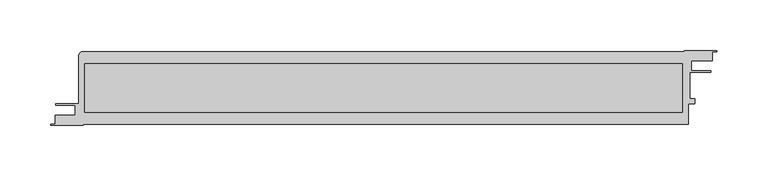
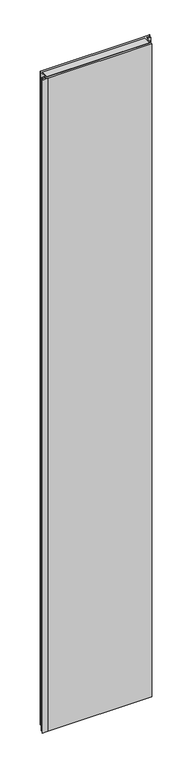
"""IFC4 building model written with IfcOpenShell, lengths in millimetres: plate geometry, Walls_External-Walls_Danpal_Danpatherm-K7-with-AIRPT-Frame : Walls_External-Walls_Danpal_Danpatherm-K7-with-AIRPT-Frame."""

from ifc_helpers import new_model, si_unit, point, frame, frame_2d, origin, place, context, project, spatial, polyline, circle_curve, trimmed, segment, composite_curve, outline, extrude, source, transform, mapped, element, save


def plate_2f56a092(model_context):
    return source(origin(), model_context, "Body", "SweptSolid", [
        extrude(outline(polyline([(279.3176513, 12.7999917), (-309.4036211, 12.7999917), (-309.4036211, 60.3432727), (279.3176513, 60.3432727), (279.3176513, 12.7999917)])), frame((0.0, 0.0, -22.0), z_axis=(0.0, 0.0, 1.0), x_axis=(1.0, 0.0, 0.0)), (0.0, 0.0, 1.0), 3948.6186541),
        extrude(outline(composite_curve([segment(polyline([(307.1570352, 53.4717617), (307.1570352, 52.1717185), (286.2570144, 52.1717185), (286.2570144, 26.0716456), (291.2570149, 26.0716456), (291.2570149, 20.9715623), (284.9570149, 20.9715623), (284.9570149, 0.8), (-310.7429914, 0.8), (-310.7429914, 0.0), (-342.6429914, 0.0), (-342.6429914, 0.8), (-338.4429914, 0.8), (-338.4429914, 9.7656785), (-318.6132316, 9.7656785), (-318.6132316, 19.6715177), (-337.5693772, 19.6715177), (-337.5693772, 20.9715623), (-315.0, 20.9715623), (-315.0, 68.5003761)]), True, "CONTINUOUS"), segment(trimmed(circle_curve(frame_2d((-311.1570911, 68.5003761)), 3.8429089), [point((-315.0, 68.5003761))], [point((-311.1570911, 72.343285))], False, "CARTESIAN"), True, "CONTINUOUS"), segment(polyline([(-311.1570911, 72.343285), (281.0568579, 72.343285), (281.0568579, 73.143285), (312.9568579, 73.143285), (312.9568579, 72.343285), (308.6568579, 72.343285), (308.6568579, 63.4717658), (287.7588048, 63.4717658), (287.7588048, 53.4717617), (307.1570352, 53.4717617)]), True, "CONTINUOUS")], self_intersect=False), holes=[polyline([(279.3176513, 12.7999917), (279.3176513, 60.3432727), (-309.4036211, 60.3432727), (-309.4036211, 12.7999917), (279.3176513, 12.7999917)])]), frame((0.0, 0.0, -22.0), z_axis=(0.0, 0.0, 1.0), x_axis=(1.0, 0.0, 0.0)), (0.0, 0.0, 1.0), 3948.6186541),
    ])


if __name__ == "__main__":
    model = new_model("IFC4")
    model_context = context("Model", 3, world=origin())
    ifc_project = project(units=[si_unit("LENGTHUNIT", "METRE", prefix="MILLI")], contexts=[model_context])
    site = spatial("IfcSite", under=ifc_project)
    building = spatial("IfcBuilding", under=site)
    placement = place(None, origin())
    plate_shape = plate_2f56a092(model_context)
    element("IfcPlate", 1, ObjectType="Walls_External-Walls_Danpal_Danpatherm-K7-with-AIRPT-Frame : Walls_External-Walls_Danpal_Danpatherm-K7-with-AIRPT-Frame", at=placement, inside=building, context=model_context, shape_type="MappedRepresentation", body=[
        mapped(plate_shape, transform((0.0, 0.0, 0.0), x_axis=(1.0, 0.0, 0.0), y_axis=(0.0, 1.0, 0.0), z_axis=(0.0, 0.0, 1.0))),
    ])
    save(model, "model.ifc")
